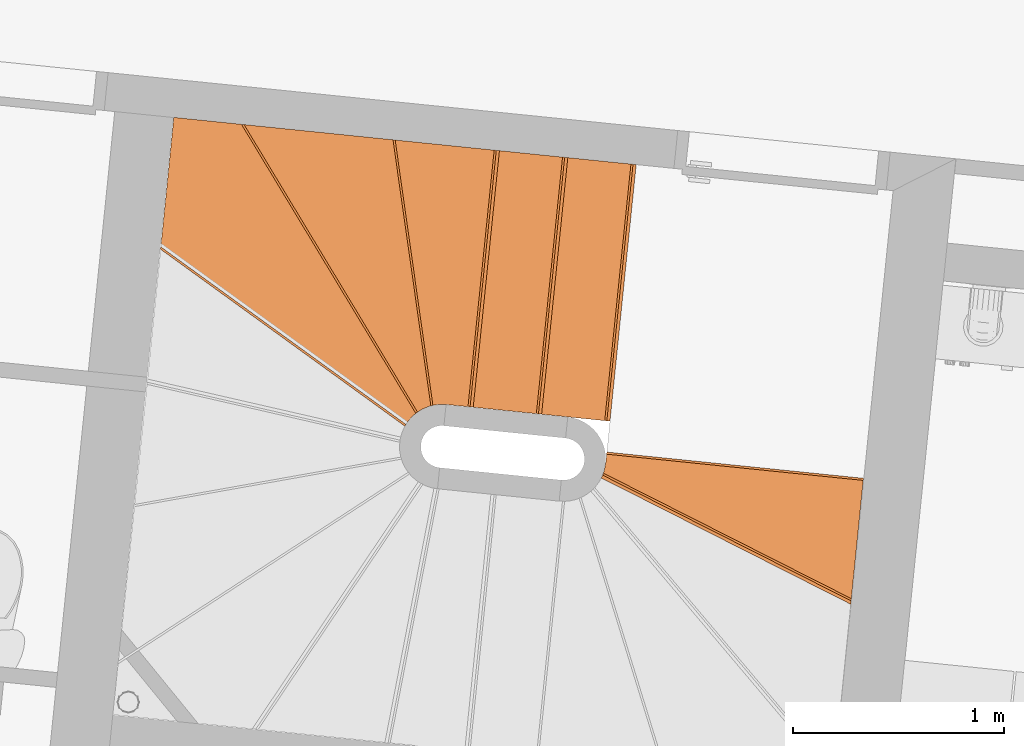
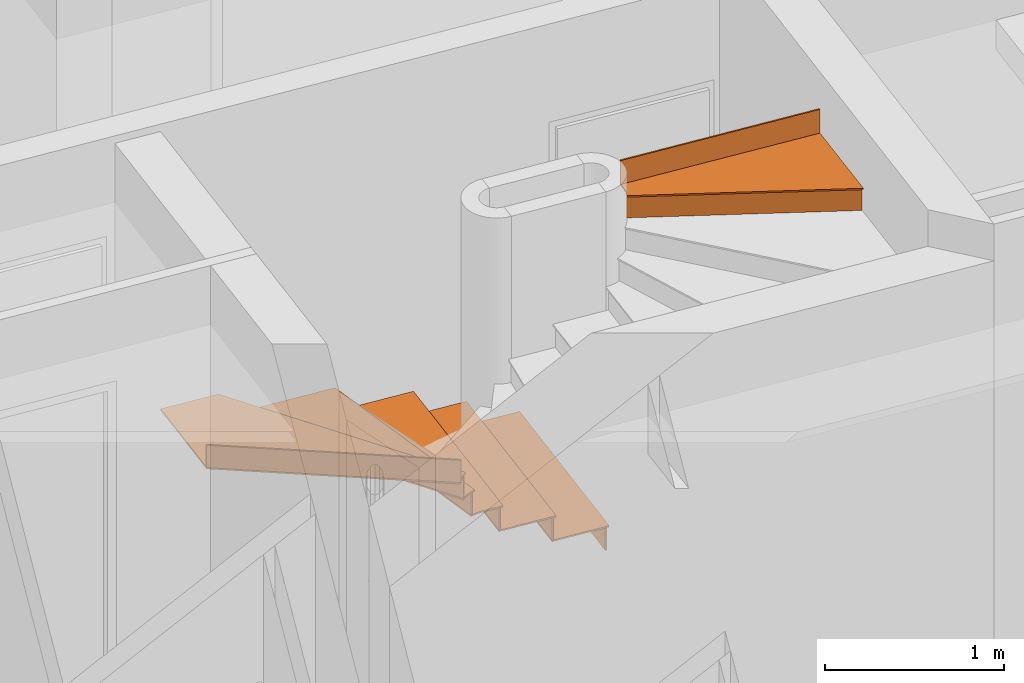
# One storey, part 164 of 164: 14 proxies, 1 element without a shape of its own.
"""IFC2X3 building model written with IfcOpenShell, lengths in millimetres."""

from ifc_helpers import new_model, entity, si_unit, converted_unit, derived_unit, money_unit, direction, frame, origin_with_axes, place, context, subcontext, project, spatial, faceted_brep, material, type_object, element, aggregate, save


model = new_model("IFC2X3")

# Units and contexts
model_context = context("Model", 3, precision=0.01, world=origin_with_axes(), true_north=direction((0.0, 1.0)))
body_context = subcontext(model_context, "Body", "Model", "MODEL_VIEW")
ifc_project = project(units=[si_unit("LENGTHUNIT", "METRE", prefix="MILLI"), si_unit("AREAUNIT", "SQUARE_METRE"), si_unit("VOLUMEUNIT", "CUBIC_METRE"), converted_unit("PLANEANGLEUNIT", "DEGREE", entity("IfcPlaneAngleMeasure", 0.0174532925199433), si_unit("PLANEANGLEUNIT", "RADIAN"), dimensions=[0, 0, 0, 0, 0, 0, 0]), money_unit("USD"), converted_unit("TIMEUNIT", "Year", entity("IfcTimeMeasure", 31557600.0), si_unit("TIMEUNIT", "SECOND"), dimensions=[0, 0, 1, 0, 0, 0, 0]), si_unit("MASSUNIT", "GRAM", prefix="KILO"), si_unit("THERMODYNAMICTEMPERATUREUNIT", "DEGREE_CELSIUS"), si_unit("LUMINOUSINTENSITYUNIT", "LUMEN"), si_unit("ENERGYUNIT", "JOULE", prefix="MEGA"), derived_unit("THERMALCONDUCTANCEUNIT", [(si_unit("POWERUNIT", "WATT"), 1), (si_unit("LENGTHUNIT", "METRE"), -1), (si_unit("THERMODYNAMICTEMPERATUREUNIT", "KELVIN"), -1)]), derived_unit("SPECIFICHEATCAPACITYUNIT", [(si_unit("ENERGYUNIT", "JOULE"), 1), (si_unit("MASSUNIT", "GRAM", prefix="KILO"), -1), (si_unit("THERMODYNAMICTEMPERATUREUNIT", "KELVIN"), -1)]), derived_unit("MASSDENSITYUNIT", [(si_unit("MASSUNIT", "GRAM", prefix="KILO"), 1), (si_unit("VOLUMEUNIT", "CUBIC_METRE"), -1)])], contexts=[model_context])

# Site, building, storey
site_placement = place(None, origin_with_axes())
site = spatial("IfcSite", under=ifc_project, at=site_placement, Name="Site", CompositionType="ELEMENT")
building_placement = place(site_placement, origin_with_axes())
building = spatial("IfcBuilding", under=site, at=building_placement, Name="Bâtiment", CompositionType="ELEMENT")
storey_placement = place(building_placement, frame((0.0, 0.0, 5750.0), z_axis=(0.0, 0.0, 1.0), x_axis=(1.0, 0.0, 0.0)))
storey = spatial("IfcBuildingStorey", under=building, at=storey_placement, Name="Etage1", CompositionType="ELEMENT", Elevation=5750.0)

# Stair, proxies
stair_placement = place(storey_placement, frame((2227388.475510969, -615472.1219328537, 0.0), z_axis=(0.0, 0.0, 1.0), x_axis=(-0.9948232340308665, 0.1016205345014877, 0.0)))
stair = element("IfcStair", 1, at=stair_placement, inside=storey, Name="ESC-020", ShapeType="NOTDEFINED")
ifc_material = material(Name="Lame d'air 275581351")
building_element_proxy_type = type_object("IfcBuildingElementProxyType", Name="IfcBuildingElementProxy", PredefinedType="NOTDEFINED")
proxy_1_placement = place(stair_placement, frame((-0.000122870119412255, -610.0000000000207, 151.7647058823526), z_axis=(0.0, 0.0, 1.0), x_axis=(-2.014264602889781e-07, -0.9999999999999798, 0.0)))
proxy_1 = element("IfcBuildingElementProxy", 2, at=proxy_1_placement, type_object=building_element_proxy_type, material=ifc_material, Name="C-MARCHE-332", context=body_context, shape_type="Brep", body=[
    faceted_brep([(609.9999999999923, 15.00000000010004, 0.0), (609.9999999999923, 25.00000000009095, 0.0), (-609.9999999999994, 24.99999999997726, 0.0), (-610.0000000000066, 14.99999999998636, 0.0), (609.9999999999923, 15.00000000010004, -151.7647058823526), (609.9999999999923, 25.00000000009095, -151.7647058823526), (-609.9999999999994, 24.99999999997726, -151.7647058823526), (-610.0000000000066, 14.99999999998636, -151.7647058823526)], [[[0, 1, 2, 3]], [[0, 4, 5, 1]], [[1, 5, 6, 2]], [[3, 2, 6, 7]], [[4, 0, 3, 7]], [[5, 4, 7, 6]]]),
])
proxy_2_placement = place(stair_placement, frame((973.3676057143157, -586.1824886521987, 637.0588235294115), z_axis=(0.0, 0.0, 1.0), x_axis=(0.2407289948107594, -0.9705923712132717, 0.0)))
proxy_2 = element("IfcBuildingElementProxy", 3, at=proxy_2_placement, type_object=building_element_proxy_type, material=ifc_material, Name="C-MARCHE-335", context=body_context, shape_type="Brep", body=[
    faceted_brep([(656.7418991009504, 15.00000000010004, 0.0), (659.2221287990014, 25.00000000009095, 0.0), (-611.3159759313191, 25.00000000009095, 0.0), (-610.5635345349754, 14.99999999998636, 0.0), (656.7418991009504, 15.00000000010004, -151.7647058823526), (659.2221287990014, 25.00000000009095, -151.7647058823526), (-611.3159759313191, 25.00000000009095, -151.7647058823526), (-610.5635345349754, 14.99999999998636, -151.7647058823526)], [[[0, 1, 2, 3]], [[0, 4, 5, 1]], [[1, 5, 6, 2]], [[3, 2, 6, 7]], [[4, 0, 3, 7]], [[5, 4, 7, 6]]]),
])
proxy_3_placement = place(stair_placement, frame((650.2010093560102, -610.0001309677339, 475.2941176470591), z_axis=(0.0, 0.0, 1.0), x_axis=(-2.014264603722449e-07, -0.9999999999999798, 0.0)))
proxy_3 = element("IfcBuildingElementProxy", 4, at=proxy_3_placement, type_object=building_element_proxy_type, material=ifc_material, Name="C-MARCHE-334", context=body_context, shape_type="Brep", body=[
    faceted_brep([(609.9999999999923, 14.99999999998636, 0.0), (609.9999999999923, 24.99999999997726, 0.0), (-610.0000000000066, 24.99999999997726, 0.0), (-610.0000000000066, 14.99999999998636, 0.0), (609.9999999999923, 14.99999999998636, -151.7647058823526), (609.9999999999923, 24.99999999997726, -151.7647058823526), (-610.0000000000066, 24.99999999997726, -151.7647058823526), (-610.0000000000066, 14.99999999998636, -151.7647058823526)], [[[0, 1, 2, 3]], [[0, 4, 5, 1]], [[1, 5, 6, 2]], [[3, 2, 6, 7]], [[4, 0, 3, 7]], [[5, 4, 7, 6]]]),
])
proxy_4_placement = place(stair_placement, frame((1265.005003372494, -447.5227900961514, 798.8235294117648), z_axis=(0.0, 0.0, 1.0), x_axis=(0.600813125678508, -0.7993895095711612, 0.0)))
proxy_4 = element("IfcBuildingElementProxy", 5, at=proxy_4_placement, type_object=building_element_proxy_type, material=ifc_material, Name="C-MARCHE-336", context=body_context, shape_type="Brep", body=[
    faceted_brep([(977.6082535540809, 14.99999999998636, 0.0), (985.124156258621, 24.99999999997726, 0.0), (-611.3159759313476, 24.99999999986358, 0.0), (-610.5635345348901, 14.99999999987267, 0.0), (977.6082535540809, 14.99999999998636, -151.7647058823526), (985.124156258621, 24.99999999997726, -151.7647058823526), (-611.3159759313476, 24.99999999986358, -151.7647058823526), (-610.5635345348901, 14.99999999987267, -151.7647058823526)], [[[0, 1, 2, 3]], [[0, 4, 5, 1]], [[1, 5, 6, 2]], [[3, 2, 6, 7]], [[4, 0, 3, 7]], [[5, 4, 7, 6]]]),
])
proxy_5_placement = place(stair_placement, frame((1479.28594708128, -205.939345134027, 960.588235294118), z_axis=(0.0, 0.0, 1.0), x_axis=(0.8653853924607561, -0.5011068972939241, 0.0)))
proxy_5 = element("IfcBuildingElementProxy", 6, at=proxy_5_placement, type_object=building_element_proxy_type, material=ifc_material, Name="C-MARCHE-337", context=body_context, shape_type="Brep", body=[
    faceted_brep([(821.0010736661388, 14.99999999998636, 0.0), (815.1882107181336, 24.99999999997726, 0.0), (-611.3159759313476, 25.00000000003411, 0.0), (-610.5635345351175, 14.99999999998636, 0.0), (821.0010736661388, 14.99999999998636, -151.7647058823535), (815.1882107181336, 24.99999999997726, -151.7647058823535), (-611.3159759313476, 25.00000000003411, -151.7647058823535), (-610.5635345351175, 14.99999999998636, -151.7647058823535)], [[[0, 1, 2, 3]], [[0, 4, 5, 1]], [[1, 5, 6, 2]], [[3, 2, 6, 7]], [[4, 0, 3, 7]], [[5, 4, 7, 6]]]),
])
proxy_6_placement = place(stair_placement, frame((325.1004432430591, -610.0000654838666, 313.5294117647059), z_axis=(0.0, 0.0, 1.0), x_axis=(-2.014264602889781e-07, -0.9999999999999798, 0.0)))
proxy_6 = element("IfcBuildingElementProxy", 7, at=proxy_6_placement, type_object=building_element_proxy_type, material=ifc_material, Name="C-MARCHE-333", context=body_context, shape_type="Brep", body=[
    faceted_brep([(609.9999999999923, 15.00000000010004, 0.0), (610.0000000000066, 25.00000000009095, 0.0), (-609.9999999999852, 25.00000000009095, 0.0), (-610.0000000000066, 15.00000000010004, 0.0), (609.9999999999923, 15.00000000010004, -151.7647058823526), (610.0000000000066, 25.00000000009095, -151.7647058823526), (-609.9999999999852, 25.00000000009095, -151.7647058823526), (-610.0000000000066, 15.00000000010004, -151.7647058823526)], [[[0, 1, 2, 3]], [[0, 4, 5, 1]], [[1, 5, 6, 2]], [[3, 2, 6, 7]], [[4, 0, 3, 7]], [[5, 4, 7, 6]]]),
])
proxy_7_placement = place(stair_placement, frame((-556.1499030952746, 490.3074143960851, 2578.235294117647), z_axis=(0.0, 0.0, 1.0), x_axis=(-0.9335114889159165, 0.3585474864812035, 0.0)))
proxy_7 = element("IfcBuildingElementProxy", 8, at=proxy_7_placement, type_object=building_element_proxy_type, material=ifc_material, Name="C-MARCHE-347", context=body_context, shape_type="Brep", body=[
    faceted_brep([(706.5081019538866, 14.99999999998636, 0.0), (702.6442387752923, 24.99999999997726, 0.0), (-611.3159759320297, 24.99999999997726, 0.0), (-610.5635345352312, 15.0000000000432, 0.0), (706.5081019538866, 14.99999999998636, -151.7647058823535), (702.6442387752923, 24.99999999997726, -151.7647058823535), (-611.3159759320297, 24.99999999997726, -151.7647058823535), (-610.5635345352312, 15.0000000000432, -151.7647058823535)], [[[0, 1, 2, 3]], [[0, 4, 5, 1]], [[1, 5, 6, 2]], [[3, 2, 6, 7]], [[4, 0, 3, 7]], [[5, 4, 7, 6]]]),
])
proxy_8_placement = place(stair_placement, frame((-609.9999402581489, 171.8189697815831, 2750.0), z_axis=(0.0, 0.0, 1.0), x_axis=(-0.9999999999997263, 7.398341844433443e-07, 0.0)))
proxy_8 = element("IfcBuildingElementProxy", 9, at=proxy_8_placement, type_object=building_element_proxy_type, material=ifc_material, Name="C-MARCHE-348", context=body_context, shape_type="Brep", body=[
    faceted_brep([(610.0000000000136, 15.00000000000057, 0.0), (610.0000000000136, 25.00000000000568, 0.0), (-610.0000000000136, 25.00000000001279, 0.0), (-610.0000000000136, 15.00000000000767, 0.0), (610.0000000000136, 15.00000000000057, -161.7647058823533), (610.0000000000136, 25.00000000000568, -161.7647058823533), (-610.0000000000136, 25.00000000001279, -161.7647058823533), (-610.0000000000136, 15.00000000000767, -161.7647058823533)], [[[0, 1, 2, 3]], [[0, 4, 5, 1]], [[1, 5, 6, 2]], [[3, 2, 6, 7]], [[4, 0, 3, 7]], [[5, 4, 7, 6]]]),
])
proxy_9_placement = place(stair_placement, frame((-0.000122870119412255, -610.0000000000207, 161.7647058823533), z_axis=(0.0, 0.0, 1.0), x_axis=(-2.014264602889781e-07, -0.9999999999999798, 0.0)))
proxy_9 = element("IfcBuildingElementProxy", 10, at=proxy_9_placement, type_object=building_element_proxy_type, material=ifc_material, Name="MARCHE-332", context=body_context, shape_type="Brep", body=[
    faceted_brep([(-609.9999999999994, 0.0, -9.999999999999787), (609.9999999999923, 0.0, -9.999999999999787), (609.9999999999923, 0.0, 0.0), (-609.9999999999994, 0.0, 0.0), (-609.9999999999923, 350.1005682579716, -9.999999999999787), (609.9999999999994, 350.1005594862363, -9.999999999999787), (609.9999999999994, 350.1005594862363, 0.0), (-609.9999999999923, 350.1005682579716, 0.0)], [[[0, 1, 2, 3]], [[0, 4, 5, 1]], [[1, 5, 6, 2]], [[3, 2, 6, 7]], [[4, 0, 3, 7]], [[5, 4, 7, 6]]]),
])
proxy_10_placement = place(stair_placement, frame((325.1004432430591, -610.0000654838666, 323.5294117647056), z_axis=(0.0, 0.0, 1.0), x_axis=(-2.014264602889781e-07, -0.9999999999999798, 0.0)))
proxy_10 = element("IfcBuildingElementProxy", 11, at=proxy_10_placement, type_object=building_element_proxy_type, material=ifc_material, Name="MARCHE-333", context=body_context, shape_type="Brep", body=[
    faceted_brep([(-609.9999999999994, 1.13686837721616e-10, -9.999999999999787), (610.0000000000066, 0.0, -9.999999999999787), (610.0000000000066, 0.0, 0.0), (-609.9999999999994, 1.13686837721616e-10, 0.0), (-609.9999999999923, 350.1005682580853, -9.999999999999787), (609.9999999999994, 350.1005594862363, -9.999999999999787), (609.9999999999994, 350.1005594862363, 0.0), (-609.9999999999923, 350.1005682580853, 0.0)], [[[0, 1, 2, 3]], [[0, 4, 5, 1]], [[1, 5, 6, 2]], [[3, 2, 6, 7]], [[4, 0, 3, 7]], [[5, 4, 7, 6]]]),
])
proxy_11_placement = place(stair_placement, frame((650.2010093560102, -610.0001309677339, 485.2941176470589), z_axis=(0.0, 0.0, 1.0), x_axis=(-2.014264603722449e-07, -0.9999999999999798, 0.0)))
proxy_11 = element("IfcBuildingElementProxy", 12, at=proxy_11_placement, type_object=building_element_proxy_type, material=ifc_material, Name="MARCHE-334", context=body_context, shape_type="Brep", body=[
    faceted_brep([(-609.9999999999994, 0.0, -9.999999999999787), (609.9999999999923, -1.13686837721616e-10, -9.999999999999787), (609.9999999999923, -1.13686837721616e-10, 0.0), (-609.9999999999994, 0.0, 0.0), (-609.9999999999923, 128.196504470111, -9.999999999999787), (-613.3837442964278, 164.8225887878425, -9.999999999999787), (-623.4204307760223, 200.2088107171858, -9.999999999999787), (610.0000000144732, 506.1254089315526, -9.999999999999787), (609.9999999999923, 128.196503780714, -9.999999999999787), (609.9999999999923, 128.196503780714, 0.0), (610.0000000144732, 506.1254089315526, 0.0), (-623.4204307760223, 200.2088107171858, 0.0), (-613.3837442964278, 164.8225887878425, 0.0), (-609.9999999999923, 128.196504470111, 0.0)], [[[0, 1, 2, 3]], [[0, 4, 5, 6, 7, 8, 1]], [[1, 8, 9, 2]], [[3, 2, 9, 10, 11, 12, 13]], [[4, 0, 3, 13]], [[5, 4, 13, 12]], [[6, 5, 12, 11]], [[7, 6, 11, 10]], [[8, 7, 10, 9]]]),
])
proxy_12_placement = place(stair_placement, frame((973.3676057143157, -586.1824886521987, 647.0588235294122), z_axis=(0.0, 0.0, 1.0), x_axis=(0.2407289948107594, -0.9705923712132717, 0.0)))
proxy_12 = element("IfcBuildingElementProxy", 13, at=proxy_12_placement, type_object=building_element_proxy_type, material=ifc_material, Name="MARCHE-335", context=body_context, shape_type="Brep", body=[
    faceted_brep([(-610.0000000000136, 2.273736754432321e-10, -9.999999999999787), (653.0215545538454, 1.13686837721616e-10, -9.999999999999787), (653.0215545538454, 1.13686837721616e-10, 0.0), (-610.0000000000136, 2.273736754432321e-10, 0.0), (-613.0741059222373, 34.92373452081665, -9.999999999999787), (-622.201882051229, 68.77341787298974, -9.999999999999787), (-637.1026110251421, 100.5080304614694, -9.999999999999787), (832.6768914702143, 724.3495917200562, -9.999999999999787), (832.6768914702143, 724.3495917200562, 0.0), (-637.1026110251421, 100.5080304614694, 0.0), (-622.201882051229, 68.77341787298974, 0.0), (-613.0741059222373, 34.92373452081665, 0.0)], [[[0, 1, 2, 3]], [[0, 4, 5, 6, 7, 1]], [[1, 7, 8, 2]], [[3, 2, 8, 9, 10, 11]], [[4, 0, 3, 11]], [[5, 4, 11, 10]], [[6, 5, 10, 9]], [[7, 6, 9, 8]]]),
])
proxy_13_placement = place(stair_placement, frame((1265.005003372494, -447.5227900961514, 808.8235294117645), z_axis=(0.0, 0.0, 1.0), x_axis=(0.600813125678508, -0.7993895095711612, 0.0)))
proxy_13 = element("IfcBuildingElementProxy", 14, at=proxy_13_placement, type_object=building_element_proxy_type, material=ifc_material, Name="MARCHE-336", context=body_context, shape_type="Brep", body=[
    faceted_brep([(-609.9999999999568, 0.0, -9.999999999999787), (966.3343994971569, 0.0, -9.999999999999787), (966.3343994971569, 0.0, 0.0), (-609.9999999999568, 0.0, 0.0), (-613.0741059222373, 34.92373452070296, -9.999999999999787), (-622.2018820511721, 68.77341787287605, -9.999999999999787), (-637.1026110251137, 100.5080304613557, -9.999999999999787), (676.2483896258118, 657.9541897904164, -9.999999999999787), (1178.253624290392, 281.9611071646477, -9.999999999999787), (1178.253624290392, 281.9611071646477, 0.0), (676.2483896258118, 657.9541897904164, 0.0), (-637.1026110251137, 100.5080304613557, 0.0), (-622.2018820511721, 68.77341787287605, 0.0), (-613.0741059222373, 34.92373452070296, 0.0)], [[[0, 1, 2, 3]], [[0, 4, 5, 6, 7, 8, 1]], [[1, 8, 9, 2]], [[3, 2, 9, 10, 11, 12, 13]], [[4, 0, 3, 13]], [[5, 4, 13, 12]], [[6, 5, 12, 11]], [[7, 6, 11, 10]], [[8, 7, 10, 9]]]),
])
proxy_14_placement = place(stair_placement, frame((-556.1499030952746, 490.3074143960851, 2588.235294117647), z_axis=(0.0, 0.0, 1.0), x_axis=(-0.9335114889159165, 0.3585474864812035, 0.0)))
proxy_14 = element("IfcBuildingElementProxy", 15, at=proxy_14_placement, type_object=building_element_proxy_type, material=ifc_material, Name="MARCHE-347", context=body_context, shape_type="Brep", body=[
    faceted_brep([(-610.0000000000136, 0.0, -9.999999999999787), (712.3038967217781, 0.0, -9.999999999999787), (712.3038967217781, 0.0, 0.0), (-610.0000000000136, 0.0, 0.0), (-613.351096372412, 36.45046483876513, -9.999999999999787), (-623.2920390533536, 71.6789177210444, -9.999999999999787), (-633.3657729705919, 97.90687214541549, -9.999999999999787), (-642.3294428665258, 121.2446659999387, -9.999999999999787), (496.554897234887, 558.6717569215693, -9.999999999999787), (505.5185671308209, 535.3339630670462, -9.999999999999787), (515.5923685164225, 509.1058329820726, -9.999999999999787), (515.5923685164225, 509.1058329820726, 0.0), (505.5185671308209, 535.3339630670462, 0.0), (496.554897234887, 558.6717569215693, 0.0), (-642.3294428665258, 121.2446659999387, 0.0), (-633.3657729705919, 97.90687214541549, 0.0), (-623.2920390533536, 71.6789177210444, 0.0), (-613.351096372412, 36.45046483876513, 0.0)], [[[0, 1, 2, 3]], [[0, 4, 5, 6, 7, 8, 9, 10, 1]], [[1, 10, 11, 2]], [[3, 2, 11, 12, 13, 14, 15, 16, 17]], [[4, 0, 3, 17]], [[5, 4, 17, 16]], [[6, 5, 16, 15]], [[7, 6, 15, 14]], [[8, 7, 14, 13]], [[9, 8, 13, 12]], [[10, 9, 12, 11]]]),
])
aggregate(stair, [proxy_1, proxy_2, proxy_3, proxy_4, proxy_5, proxy_6, proxy_7, proxy_8, proxy_9, proxy_10, proxy_11, proxy_12, proxy_13, proxy_14])

save(model, "model.ifc")
